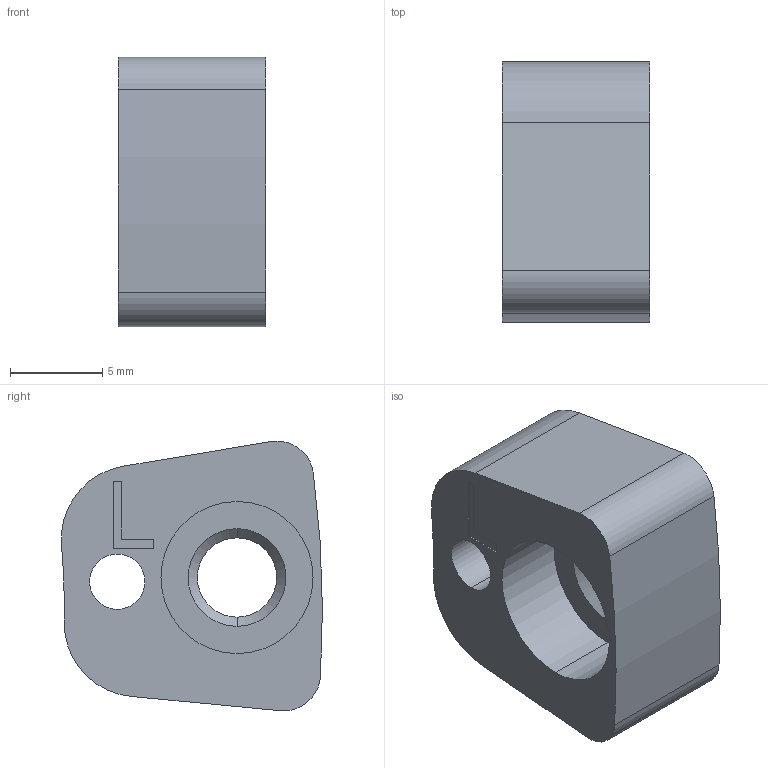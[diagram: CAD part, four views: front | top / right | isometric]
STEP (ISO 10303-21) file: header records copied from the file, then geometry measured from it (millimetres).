
FILE_DESCRIPTION((''),'2;1');
FILE_NAME('KD-D-105L_LHIPYOKEHARDSTOPTOO_1','2025-07-13T10:04:40',('Administrator'),(''),'CREO PARAMETRIC BY PTC INC, 2022073','CREO PARAMETRIC BY PTC INC, 2022073','');
FILE_SCHEMA(('CONFIG_CONTROL_DESIGN'));
Length unit declared in the file: millimetre
Products named in the file (1): KD-D-105L_LHIPYOKEHARDSTOPTOO_1
Bounding box: 8 x 14.15 x 14.64 mm (x, y, z)
Volume: 1100.9 mm3; surface area: 941.7 mm2
Topology: 1 solids, 1 shells, 28 faces, 72 edges, 48 vertices
Faces by surface type: plane 12, cylinder 12, cone 4
Entity records: 914 total; most frequent: DIRECTION 160, CARTESIAN_POINT 148, ORIENTED_EDGE 144, EDGE_CURVE 72, AXIS2_PLACEMENT_3D 60, VERTEX_POINT 48, VECTOR 40, LINE 40
